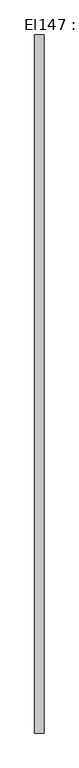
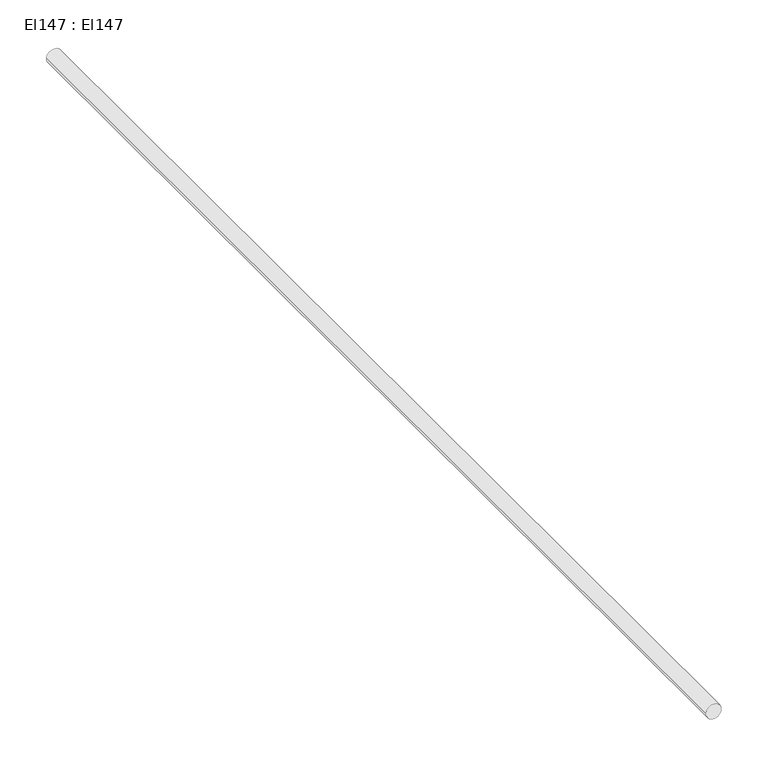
"""IFC4 building model written with IfcOpenShell, lengths in millimetres: cable carrier segment geometry, El147 : El147."""

from ifc_helpers import new_model, si_unit, point, frame, frame_2d, origin, place, context, project, spatial, circle_curve, trimmed, segment, composite_curve, outline, extrude, source, transform, mapped, element, save


def el147_el147_019ff0f7(model_context):
    return source(origin(), model_context, "Body", "SweptSolid", [
        extrude(outline(composite_curve([segment(trimmed(circle_curve(frame_2d((2950.0, 22330.0)), 9.5), [point((2950.0, 22320.5))], [point((2950.0, 22339.5))], False, "CARTESIAN"), True, "CONTINUOUS"), segment(trimmed(circle_curve(frame_2d((2950.0, 22330.0)), 9.5), [point((2950.0, 22339.5))], [point((2950.0, 22320.5))], False, "CARTESIAN"), True, "CONTINUOUS")], self_intersect=False)), frame((0.0, 9479.551, 0.0), z_axis=(0.0, 1.0, 0.0), x_axis=(0.0, 0.0, 1.0)), (0.0, 0.0, 1.0), 1416.7),
    ])


if __name__ == "__main__":
    model = new_model("IFC4")
    model_context = context("Model", 3, world=origin())
    ifc_project = project(units=[si_unit("LENGTHUNIT", "METRE", prefix="MILLI")], contexts=[model_context])
    site = spatial("IfcSite", under=ifc_project)
    building = spatial("IfcBuilding", under=site)
    placement = place(None, origin())
    el147_el147_shape = el147_el147_019ff0f7(model_context)
    element("IfcCableCarrierSegment", 1, ObjectType="El147 : El147", at=placement, inside=building, context=model_context, shape_type="MappedRepresentation", body=[
        mapped(el147_el147_shape, transform((0.0, 0.0, 0.0), x_axis=(1.0, 0.0, 0.0), y_axis=(0.0, 1.0, 0.0), z_axis=(0.0, 0.0, 1.0))),
    ])
    save(model, "model.ifc")
